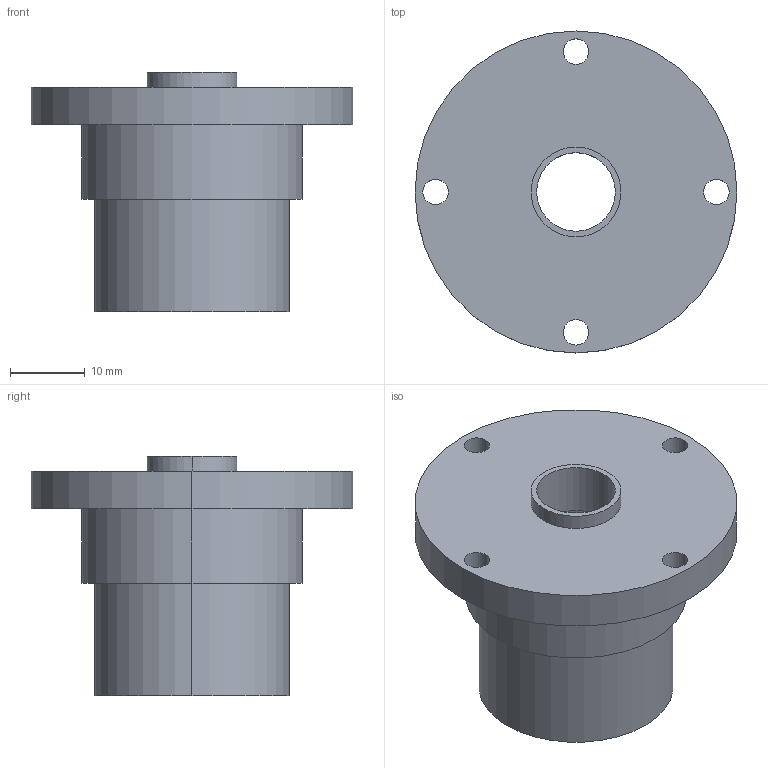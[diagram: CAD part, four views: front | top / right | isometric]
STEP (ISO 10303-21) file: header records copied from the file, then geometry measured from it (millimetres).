
FILE_DESCRIPTION(/* description */ (''),/* implementation_level */ '2;1');
FILE_NAME(/* name */ 'TWC-CY0017-P99_Cylinder Flange.stp',/* time_stamp */ '2026-02-19T07:52:26+01:00',/* author */ (''),/* organization */ (''),/* preprocessor_version */ 'ST-DEVELOPER v18.1',/* originating_system */ 'SIEMENS PLM Software NX 1988',/* authorisation */ '');
FILE_SCHEMA (('AUTOMOTIVE_DESIGN { 1 0 10303 214 3 1 1 1 }'));
Length unit declared in the file: millimetre
Products named in the file (1): anto80DCB5E9lili
Bounding box: 43 x 43 x 32 mm (x, y, z)
Volume: 13644.4 mm3; surface area: 7576.8 mm2
Topology: 1 solids, 1 shells, 26 faces, 60 edges, 40 vertices
Faces by surface type: cylinder 20, plane 6
Entity records: 816 total; most frequent: DIRECTION 154, CARTESIAN_POINT 127, ORIENTED_EDGE 120, AXIS2_PLACEMENT_3D 67, EDGE_CURVE 60, EDGE_LOOP 40, CIRCLE 40, VERTEX_POINT 40
